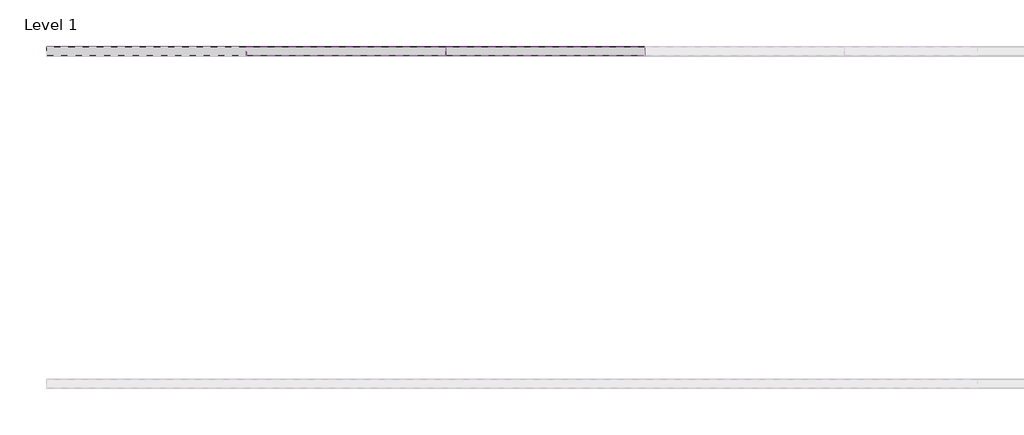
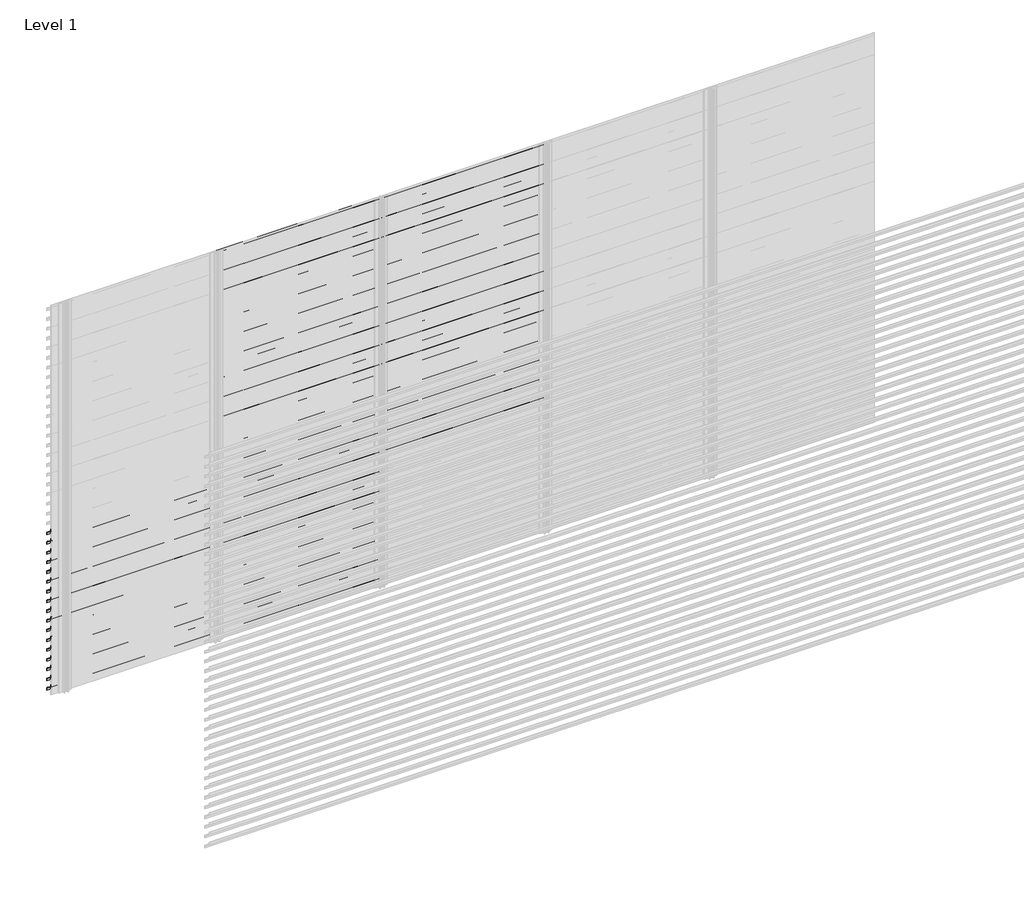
# One storey, part 6 of 55: 84 proxies.
"""IFC4 building model written with IfcOpenShell, lengths in millimetres."""

from ifc_helpers import new_model, si_unit, frame, origin, place, context, project, spatial, polyline, outline, extrude, element, save

model = new_model("IFC4")

# Units and contexts
model_context = context("Model", 3, world=origin())
ifc_project = project(units=[si_unit("LENGTHUNIT", "METRE", prefix="MILLI")], contexts=[model_context])

# Site, building, storey
site = spatial("IfcSite", under=ifc_project)
building = spatial("IfcBuilding", under=site)
storey = spatial("IfcBuildingStorey", under=building, Name="Level 1", Elevation=0.0)

# Proxies
placement = place(None, origin())
element("IfcBuildingElementProxy", 1, Name="Wall Sweeps", at=placement, inside=storey, context=model_context, shape_type="SweptSolid", body=[
    extrude(outline(polyline([(7044.0270068, 1218.5), (7044.0270068, 1198.5), (7042.7770068, 1199.2216933), (7042.7770068, 1217.7872415), (6989.0270068, 1255.3158044), (6989.0270068, 1275.0), (6990.2770068, 1275.0), (6990.2770068, 1256.0285629), (7044.0270068, 1218.5)])), frame((466.6208097, 0.0, 0.0), z_axis=(1.0, 0.0, 0.0), x_axis=(0.0, 1.0, 0.0)), (0.0, 0.0, 1.0), 1200.0000002),
])
element("IfcBuildingElementProxy", 2, Name="Wall Sweeps", at=placement, inside=storey, context=model_context, shape_type="SweptSolid", body=[
    extrude(outline(polyline([(7044.0270068, 1143.5), (7044.0270068, 1123.5), (7042.7770068, 1124.2216933), (7042.7770068, 1142.7872415), (6989.0270068, 1180.3158044), (6989.0270068, 1200.0), (6990.2770068, 1200.0), (6990.2770068, 1181.0285629), (7044.0270068, 1143.5)])), frame((466.6208097, 0.0, 0.0), z_axis=(1.0, 0.0, 0.0), x_axis=(0.0, 1.0, 0.0)), (0.0, 0.0, 1.0), 1200.0000002),
])
element("IfcBuildingElementProxy", 3, Name="Wall Sweeps", at=placement, inside=storey, context=model_context, shape_type="SweptSolid", body=[
    extrude(outline(polyline([(7044.0270068, 1068.5), (7044.0270068, 1048.5), (7042.7770068, 1049.2216933), (7042.7770068, 1067.7872415), (6989.0270068, 1105.3158044), (6989.0270068, 1125.0), (6990.2770068, 1125.0), (6990.2770068, 1106.0285629), (7044.0270068, 1068.5)])), frame((466.6208097, 0.0, 0.0), z_axis=(1.0, 0.0, 0.0), x_axis=(0.0, 1.0, 0.0)), (0.0, 0.0, 1.0), 1200.0000002),
])
element("IfcBuildingElementProxy", 4, Name="Wall Sweeps", at=placement, inside=storey, context=model_context, shape_type="SweptSolid", body=[
    extrude(outline(polyline([(7044.0270068, 993.5), (7044.0270068, 973.5), (7042.7770068, 974.2216933), (7042.7770068, 992.7872415), (6989.0270068, 1030.3158044), (6989.0270068, 1050.0), (6990.2770068, 1050.0), (6990.2770068, 1031.0285629), (7044.0270068, 993.5)])), frame((466.6208097, 0.0, 0.0), z_axis=(1.0, 0.0, 0.0), x_axis=(0.0, 1.0, 0.0)), (0.0, 0.0, 1.0), 1200.0000002),
])
element("IfcBuildingElementProxy", 5, Name="Wall Sweeps", at=placement, inside=storey, context=model_context, shape_type="SweptSolid", body=[
    extrude(outline(polyline([(7044.0270068, 918.5), (7044.0270068, 898.5), (7042.7770068, 899.2216933), (7042.7770068, 917.7872415), (6989.0270068, 955.3158044), (6989.0270068, 975.0), (6990.2770068, 975.0), (6990.2770068, 956.0285629), (7044.0270068, 918.5)])), frame((466.6208097, 0.0, 0.0), z_axis=(1.0, 0.0, 0.0), x_axis=(0.0, 1.0, 0.0)), (0.0, 0.0, 1.0), 1200.0000002),
])
element("IfcBuildingElementProxy", 6, Name="Wall Sweeps", at=placement, inside=storey, context=model_context, shape_type="SweptSolid", body=[
    extrude(outline(polyline([(7044.0270068, 843.5), (7044.0270068, 823.5), (7042.7770068, 824.2216933), (7042.7770068, 842.7872415), (6989.0270068, 880.3158044), (6989.0270068, 900.0), (6990.2770068, 900.0), (6990.2770068, 881.0285629), (7044.0270068, 843.5)])), frame((466.6208097, 0.0, 0.0), z_axis=(1.0, 0.0, 0.0), x_axis=(0.0, 1.0, 0.0)), (0.0, 0.0, 1.0), 1200.0000002),
])
element("IfcBuildingElementProxy", 7, Name="Wall Sweeps", at=placement, inside=storey, context=model_context, shape_type="SweptSolid", body=[
    extrude(outline(polyline([(7044.0270068, 768.5), (7044.0270068, 748.5), (7042.7770068, 749.2216933), (7042.7770068, 767.7872415), (6989.0270068, 805.3158044), (6989.0270068, 825.0), (6990.2770068, 825.0), (6990.2770068, 806.0285629), (7044.0270068, 768.5)])), frame((466.6208097, 0.0, 0.0), z_axis=(1.0, 0.0, 0.0), x_axis=(0.0, 1.0, 0.0)), (0.0, 0.0, 1.0), 1200.0000002),
])
element("IfcBuildingElementProxy", 8, Name="Wall Sweeps", at=placement, inside=storey, context=model_context, shape_type="SweptSolid", body=[
    extrude(outline(polyline([(7044.0270068, 693.5), (7044.0270068, 673.5), (7042.7770068, 674.2216933), (7042.7770068, 692.7872415), (6989.0270068, 730.3158044), (6989.0270068, 750.0), (6990.2770068, 750.0), (6990.2770068, 731.0285629), (7044.0270068, 693.5)])), frame((466.6208097, 0.0, 0.0), z_axis=(1.0, 0.0, 0.0), x_axis=(0.0, 1.0, 0.0)), (0.0, 0.0, 1.0), 1200.0000002),
])
element("IfcBuildingElementProxy", 9, Name="Wall Sweeps", at=placement, inside=storey, context=model_context, shape_type="SweptSolid", body=[
    extrude(outline(polyline([(7044.0270068, 618.5), (7044.0270068, 598.5), (7042.7770068, 599.2216933), (7042.7770068, 617.7872415), (6989.0270068, 655.3158044), (6989.0270068, 675.0), (6990.2770068, 675.0), (6990.2770068, 656.0285629), (7044.0270068, 618.5)])), frame((466.6208097, 0.0, 0.0), z_axis=(1.0, 0.0, 0.0), x_axis=(0.0, 1.0, 0.0)), (0.0, 0.0, 1.0), 1200.0000002),
])
element("IfcBuildingElementProxy", 10, Name="Wall Sweeps", at=placement, inside=storey, context=model_context, shape_type="SweptSolid", body=[
    extrude(outline(polyline([(7044.0270068, 543.5), (7044.0270068, 523.5), (7042.7770068, 524.2216933), (7042.7770068, 542.7872415), (6989.0270068, 580.3158044), (6989.0270068, 600.0), (6990.2770068, 600.0), (6990.2770068, 581.0285629), (7044.0270068, 543.5)])), frame((466.6208097, 0.0, 0.0), z_axis=(1.0, 0.0, 0.0), x_axis=(0.0, 1.0, 0.0)), (0.0, 0.0, 1.0), 1200.0000002),
])
element("IfcBuildingElementProxy", 11, Name="Wall Sweeps", at=placement, inside=storey, context=model_context, shape_type="SweptSolid", body=[
    extrude(outline(polyline([(7044.0270068, 468.5), (7044.0270068, 448.5), (7042.7770068, 449.2216933), (7042.7770068, 467.7872415), (6989.0270068, 505.3158044), (6989.0270068, 525.0), (6990.2770068, 525.0), (6990.2770068, 506.0285629), (7044.0270068, 468.5)])), frame((466.6208097, 0.0, 0.0), z_axis=(1.0, 0.0, 0.0), x_axis=(0.0, 1.0, 0.0)), (0.0, 0.0, 1.0), 1200.0000002),
])
element("IfcBuildingElementProxy", 12, Name="Wall Sweeps", at=placement, inside=storey, context=model_context, shape_type="SweptSolid", body=[
    extrude(outline(polyline([(7044.0270068, 393.5), (7044.0270068, 373.5), (7042.7770068, 374.2216933), (7042.7770068, 392.7872415), (6989.0270068, 430.3158044), (6989.0270068, 450.0), (6990.2770068, 450.0), (6990.2770068, 431.0285629), (7044.0270068, 393.5)])), frame((466.6208097, 0.0, 0.0), z_axis=(1.0, 0.0, 0.0), x_axis=(0.0, 1.0, 0.0)), (0.0, 0.0, 1.0), 1200.0000002),
])
element("IfcBuildingElementProxy", 13, Name="Wall Sweeps", at=placement, inside=storey, context=model_context, shape_type="SweptSolid", body=[
    extrude(outline(polyline([(7044.0270068, 318.5), (7044.0270068, 298.5), (7042.7770068, 299.2216933), (7042.7770068, 317.7872415), (6989.0270068, 355.3158044), (6989.0270068, 375.0), (6990.2770068, 375.0), (6990.2770068, 356.0285629), (7044.0270068, 318.5)])), frame((466.6208097, 0.0, 0.0), z_axis=(1.0, 0.0, 0.0), x_axis=(0.0, 1.0, 0.0)), (0.0, 0.0, 1.0), 1200.0000002),
])
element("IfcBuildingElementProxy", 14, Name="Wall Sweeps", at=placement, inside=storey, context=model_context, shape_type="SweptSolid", body=[
    extrude(outline(polyline([(7044.0270068, 243.5), (7044.0270068, 223.5), (7042.7770068, 224.2216933), (7042.7770068, 242.7872415), (6989.0270068, 280.3158044), (6989.0270068, 300.0), (6990.2770068, 300.0), (6990.2770068, 281.0285629), (7044.0270068, 243.5)])), frame((466.6208097, 0.0, 0.0), z_axis=(1.0, 0.0, 0.0), x_axis=(0.0, 1.0, 0.0)), (0.0, 0.0, 1.0), 1200.0000002),
])
element("IfcBuildingElementProxy", 15, Name="Wall Sweeps", at=placement, inside=storey, context=model_context, shape_type="SweptSolid", body=[
    extrude(outline(polyline([(7044.0270068, 168.5), (7044.0270068, 148.5), (7042.7770068, 149.2216933), (7042.7770068, 167.7872415), (6989.0270068, 205.3158044), (6989.0270068, 225.0), (6990.2770068, 225.0), (6990.2770068, 206.0285629), (7044.0270068, 168.5)])), frame((466.6208097, 0.0, 0.0), z_axis=(1.0, 0.0, 0.0), x_axis=(0.0, 1.0, 0.0)), (0.0, 0.0, 1.0), 1200.0000002),
])
element("IfcBuildingElementProxy", 16, Name="Wall Sweeps", at=placement, inside=storey, context=model_context, shape_type="SweptSolid", body=[
    extrude(outline(polyline([(7044.0270068, 93.5), (7044.0270068, 73.5), (7042.7770068, 74.2216933), (7042.7770068, 92.7872415), (6989.0270068, 130.3158044), (6989.0270068, 150.0), (6990.2770068, 150.0), (6990.2770068, 131.0285629), (7044.0270068, 93.5)])), frame((466.6208097, 0.0, 0.0), z_axis=(1.0, 0.0, 0.0), x_axis=(0.0, 1.0, 0.0)), (0.0, 0.0, 1.0), 1200.0000002),
])
element("IfcBuildingElementProxy", 17, Name="Wall Sweeps", at=placement, inside=storey, context=model_context, shape_type="SweptSolid", body=[
    extrude(outline(polyline([(7044.0270068, 18.5), (7044.0270068, -1.5), (7042.7770068, -0.7783067), (7042.7770068, 17.7872415), (6989.0270068, 55.3158044), (6989.0270068, 75.0), (6990.2770068, 75.0), (6990.2770068, 56.0285629), (7044.0270068, 18.5)])), frame((466.6208097, 0.0, 0.0), z_axis=(1.0, 0.0, 0.0), x_axis=(0.0, 1.0, 0.0)), (0.0, 0.0, 1.0), 1200.0000002),
])
element("IfcBuildingElementProxy", 18, Name="Wall Sweeps", at=placement, inside=storey, context=model_context, shape_type="SweptSolid", body=[
    extrude(outline(polyline([(7044.0270068, 2943.5), (7044.0270068, 2923.5), (7042.7770068, 2924.2216933), (7042.7770068, 2942.7872415), (6989.0270068, 2980.3158044), (6989.0270068, 3000.0), (6990.2770068, 3000.0), (6990.2770068, 2981.0285629), (7044.0270068, 2943.5)])), frame((1666.6208099, 0.0, 0.0), z_axis=(1.0, 0.0, 0.0), x_axis=(0.0, 1.0, 0.0)), (0.0, 0.0, 1.0), 1199.9999999),
])
element("IfcBuildingElementProxy", 19, Name="Wall Sweeps", at=placement, inside=storey, context=model_context, shape_type="SweptSolid", body=[
    extrude(outline(polyline([(7044.0270068, 2868.5), (7044.0270068, 2848.5), (7042.7770068, 2849.2216933), (7042.7770068, 2867.7872415), (6989.0270068, 2905.3158044), (6989.0270068, 2925.0), (6990.2770068, 2925.0), (6990.2770068, 2906.0285629), (7044.0270068, 2868.5)])), frame((1666.6208099, 0.0, 0.0), z_axis=(1.0, 0.0, 0.0), x_axis=(0.0, 1.0, 0.0)), (0.0, 0.0, 1.0), 1199.9999999),
])
element("IfcBuildingElementProxy", 20, Name="Wall Sweeps", at=placement, inside=storey, context=model_context, shape_type="SweptSolid", body=[
    extrude(outline(polyline([(7044.0270068, 2793.5), (7044.0270068, 2773.5), (7042.7770068, 2774.2216933), (7042.7770068, 2792.7872415), (6989.0270068, 2830.3158044), (6989.0270068, 2850.0), (6990.2770068, 2850.0), (6990.2770068, 2831.0285629), (7044.0270068, 2793.5)])), frame((1666.6208099, 0.0, 0.0), z_axis=(1.0, 0.0, 0.0), x_axis=(0.0, 1.0, 0.0)), (0.0, 0.0, 1.0), 1199.9999999),
])
element("IfcBuildingElementProxy", 21, Name="Wall Sweeps", at=placement, inside=storey, context=model_context, shape_type="SweptSolid", body=[
    extrude(outline(polyline([(7044.0270068, 2718.5), (7044.0270068, 2698.5), (7042.7770068, 2699.2216933), (7042.7770068, 2717.7872415), (6989.0270068, 2755.3158044), (6989.0270068, 2775.0), (6990.2770068, 2775.0), (6990.2770068, 2756.0285629), (7044.0270068, 2718.5)])), frame((1666.6208099, 0.0, 0.0), z_axis=(1.0, 0.0, 0.0), x_axis=(0.0, 1.0, 0.0)), (0.0, 0.0, 1.0), 1199.9999999),
])
element("IfcBuildingElementProxy", 22, Name="Wall Sweeps", at=placement, inside=storey, context=model_context, shape_type="SweptSolid", body=[
    extrude(outline(polyline([(7044.0270068, 2643.5), (7044.0270068, 2623.5), (7042.7770068, 2624.2216933), (7042.7770068, 2642.7872415), (6989.0270068, 2680.3158044), (6989.0270068, 2700.0), (6990.2770068, 2700.0), (6990.2770068, 2681.0285629), (7044.0270068, 2643.5)])), frame((1666.6208099, 0.0, 0.0), z_axis=(1.0, 0.0, 0.0), x_axis=(0.0, 1.0, 0.0)), (0.0, 0.0, 1.0), 1199.9999999),
])
element("IfcBuildingElementProxy", 23, Name="Wall Sweeps", at=placement, inside=storey, context=model_context, shape_type="SweptSolid", body=[
    extrude(outline(polyline([(7044.0270068, 2568.5), (7044.0270068, 2548.5), (7042.7770068, 2549.2216933), (7042.7770068, 2567.7872415), (6989.0270068, 2605.3158044), (6989.0270068, 2625.0), (6990.2770068, 2625.0), (6990.2770068, 2606.0285629), (7044.0270068, 2568.5)])), frame((1666.6208099, 0.0, 0.0), z_axis=(1.0, 0.0, 0.0), x_axis=(0.0, 1.0, 0.0)), (0.0, 0.0, 1.0), 1199.9999999),
])
element("IfcBuildingElementProxy", 24, Name="Wall Sweeps", at=placement, inside=storey, context=model_context, shape_type="SweptSolid", body=[
    extrude(outline(polyline([(7044.0270068, 2493.5), (7044.0270068, 2473.5), (7042.7770068, 2474.2216933), (7042.7770068, 2492.7872415), (6989.0270068, 2530.3158044), (6989.0270068, 2550.0), (6990.2770068, 2550.0), (6990.2770068, 2531.0285629), (7044.0270068, 2493.5)])), frame((1666.6208099, 0.0, 0.0), z_axis=(1.0, 0.0, 0.0), x_axis=(0.0, 1.0, 0.0)), (0.0, 0.0, 1.0), 1199.9999999),
])
element("IfcBuildingElementProxy", 25, Name="Wall Sweeps", at=placement, inside=storey, context=model_context, shape_type="SweptSolid", body=[
    extrude(outline(polyline([(7044.0270068, 2418.5), (7044.0270068, 2398.5), (7042.7770068, 2399.2216933), (7042.7770068, 2417.7872415), (6989.0270068, 2455.3158044), (6989.0270068, 2475.0), (6990.2770068, 2475.0), (6990.2770068, 2456.0285629), (7044.0270068, 2418.5)])), frame((1666.6208099, 0.0, 0.0), z_axis=(1.0, 0.0, 0.0), x_axis=(0.0, 1.0, 0.0)), (0.0, 0.0, 1.0), 1199.9999999),
])
element("IfcBuildingElementProxy", 26, Name="Wall Sweeps", at=placement, inside=storey, context=model_context, shape_type="SweptSolid", body=[
    extrude(outline(polyline([(7044.0270068, 2343.5), (7044.0270068, 2323.5), (7042.7770068, 2324.2216933), (7042.7770068, 2342.7872415), (6989.0270068, 2380.3158044), (6989.0270068, 2400.0), (6990.2770068, 2400.0), (6990.2770068, 2381.0285629), (7044.0270068, 2343.5)])), frame((1666.6208099, 0.0, 0.0), z_axis=(1.0, 0.0, 0.0), x_axis=(0.0, 1.0, 0.0)), (0.0, 0.0, 1.0), 1199.9999999),
])
element("IfcBuildingElementProxy", 27, Name="Wall Sweeps", at=placement, inside=storey, context=model_context, shape_type="SweptSolid", body=[
    extrude(outline(polyline([(7044.0270068, 2268.5), (7044.0270068, 2248.5), (7042.7770068, 2249.2216933), (7042.7770068, 2267.7872415), (6989.0270068, 2305.3158044), (6989.0270068, 2325.0), (6990.2770068, 2325.0), (6990.2770068, 2306.0285629), (7044.0270068, 2268.5)])), frame((1666.6208099, 0.0, 0.0), z_axis=(1.0, 0.0, 0.0), x_axis=(0.0, 1.0, 0.0)), (0.0, 0.0, 1.0), 1199.9999999),
])
element("IfcBuildingElementProxy", 28, Name="Wall Sweeps", at=placement, inside=storey, context=model_context, shape_type="SweptSolid", body=[
    extrude(outline(polyline([(7044.0270068, 2193.5), (7044.0270068, 2173.5), (7042.7770068, 2174.2216933), (7042.7770068, 2192.7872415), (6989.0270068, 2230.3158044), (6989.0270068, 2250.0), (6990.2770068, 2250.0), (6990.2770068, 2231.0285629), (7044.0270068, 2193.5)])), frame((1666.6208099, 0.0, 0.0), z_axis=(1.0, 0.0, 0.0), x_axis=(0.0, 1.0, 0.0)), (0.0, 0.0, 1.0), 1199.9999999),
])
element("IfcBuildingElementProxy", 29, Name="Wall Sweeps", at=placement, inside=storey, context=model_context, shape_type="SweptSolid", body=[
    extrude(outline(polyline([(7044.0270068, 2118.5), (7044.0270068, 2098.5), (7042.7770068, 2099.2216933), (7042.7770068, 2117.7872415), (6989.0270068, 2155.3158044), (6989.0270068, 2175.0), (6990.2770068, 2175.0), (6990.2770068, 2156.0285629), (7044.0270068, 2118.5)])), frame((1666.6208099, 0.0, 0.0), z_axis=(1.0, 0.0, 0.0), x_axis=(0.0, 1.0, 0.0)), (0.0, 0.0, 1.0), 1199.9999999),
])
element("IfcBuildingElementProxy", 30, Name="Wall Sweeps", at=placement, inside=storey, context=model_context, shape_type="SweptSolid", body=[
    extrude(outline(polyline([(7044.0270068, 2043.5), (7044.0270068, 2023.5), (7042.7770068, 2024.2216933), (7042.7770068, 2042.7872415), (6989.0270068, 2080.3158044), (6989.0270068, 2100.0), (6990.2770068, 2100.0), (6990.2770068, 2081.0285629), (7044.0270068, 2043.5)])), frame((1666.6208099, 0.0, 0.0), z_axis=(1.0, 0.0, 0.0), x_axis=(0.0, 1.0, 0.0)), (0.0, 0.0, 1.0), 1199.9999999),
])
element("IfcBuildingElementProxy", 31, Name="Wall Sweeps", at=placement, inside=storey, context=model_context, shape_type="SweptSolid", body=[
    extrude(outline(polyline([(7044.0270068, 1968.5), (7044.0270068, 1948.5), (7042.7770068, 1949.2216933), (7042.7770068, 1967.7872415), (6989.0270068, 2005.3158044), (6989.0270068, 2025.0), (6990.2770068, 2025.0), (6990.2770068, 2006.0285629), (7044.0270068, 1968.5)])), frame((1666.6208099, 0.0, 0.0), z_axis=(1.0, 0.0, 0.0), x_axis=(0.0, 1.0, 0.0)), (0.0, 0.0, 1.0), 1199.9999999),
])
element("IfcBuildingElementProxy", 32, Name="Wall Sweeps", at=placement, inside=storey, context=model_context, shape_type="SweptSolid", body=[
    extrude(outline(polyline([(7044.0270068, 1893.5), (7044.0270068, 1873.5), (7042.7770068, 1874.2216933), (7042.7770068, 1892.7872415), (6989.0270068, 1930.3158044), (6989.0270068, 1950.0), (6990.2770068, 1950.0), (6990.2770068, 1931.0285629), (7044.0270068, 1893.5)])), frame((1666.6208099, 0.0, 0.0), z_axis=(1.0, 0.0, 0.0), x_axis=(0.0, 1.0, 0.0)), (0.0, 0.0, 1.0), 1199.9999999),
])
element("IfcBuildingElementProxy", 33, Name="Wall Sweeps", at=placement, inside=storey, context=model_context, shape_type="SweptSolid", body=[
    extrude(outline(polyline([(7044.0270068, 1818.5), (7044.0270068, 1798.5), (7042.7770068, 1799.2216933), (7042.7770068, 1817.7872415), (6989.0270068, 1855.3158044), (6989.0270068, 1875.0), (6990.2770068, 1875.0), (6990.2770068, 1856.0285629), (7044.0270068, 1818.5)])), frame((1666.6208099, 0.0, 0.0), z_axis=(1.0, 0.0, 0.0), x_axis=(0.0, 1.0, 0.0)), (0.0, 0.0, 1.0), 1199.9999999),
])
element("IfcBuildingElementProxy", 34, Name="Wall Sweeps", at=placement, inside=storey, context=model_context, shape_type="SweptSolid", body=[
    extrude(outline(polyline([(7044.0270068, 1743.5), (7044.0270068, 1723.5), (7042.7770068, 1724.2216933), (7042.7770068, 1742.7872415), (6989.0270068, 1780.3158044), (6989.0270068, 1800.0), (6990.2770068, 1800.0), (6990.2770068, 1781.0285629), (7044.0270068, 1743.5)])), frame((1666.6208099, 0.0, 0.0), z_axis=(1.0, 0.0, 0.0), x_axis=(0.0, 1.0, 0.0)), (0.0, 0.0, 1.0), 1199.9999999),
])
element("IfcBuildingElementProxy", 35, Name="Wall Sweeps", at=placement, inside=storey, context=model_context, shape_type="SweptSolid", body=[
    extrude(outline(polyline([(7044.0270068, 1668.5), (7044.0270068, 1648.5), (7042.7770068, 1649.2216933), (7042.7770068, 1667.7872415), (6989.0270068, 1705.3158044), (6989.0270068, 1725.0), (6990.2770068, 1725.0), (6990.2770068, 1706.0285629), (7044.0270068, 1668.5)])), frame((1666.6208099, 0.0, 0.0), z_axis=(1.0, 0.0, 0.0), x_axis=(0.0, 1.0, 0.0)), (0.0, 0.0, 1.0), 1199.9999999),
])
element("IfcBuildingElementProxy", 36, Name="Wall Sweeps", at=placement, inside=storey, context=model_context, shape_type="SweptSolid", body=[
    extrude(outline(polyline([(7044.0270068, 1593.5), (7044.0270068, 1573.5), (7042.7770068, 1574.2216933), (7042.7770068, 1592.7872415), (6989.0270068, 1630.3158044), (6989.0270068, 1650.0), (6990.2770068, 1650.0), (6990.2770068, 1631.0285629), (7044.0270068, 1593.5)])), frame((1666.6208099, 0.0, 0.0), z_axis=(1.0, 0.0, 0.0), x_axis=(0.0, 1.0, 0.0)), (0.0, 0.0, 1.0), 1199.9999999),
])
element("IfcBuildingElementProxy", 37, Name="Wall Sweeps", at=placement, inside=storey, context=model_context, shape_type="SweptSolid", body=[
    extrude(outline(polyline([(7044.0270068, 1518.5), (7044.0270068, 1498.5), (7042.7770068, 1499.2216933), (7042.7770068, 1517.7872415), (6989.0270068, 1555.3158044), (6989.0270068, 1575.0), (6990.2770068, 1575.0), (6990.2770068, 1556.0285629), (7044.0270068, 1518.5)])), frame((1666.6208099, 0.0, 0.0), z_axis=(1.0, 0.0, 0.0), x_axis=(0.0, 1.0, 0.0)), (0.0, 0.0, 1.0), 1199.9999999),
])
element("IfcBuildingElementProxy", 38, Name="Wall Sweeps", at=placement, inside=storey, context=model_context, shape_type="SweptSolid", body=[
    extrude(outline(polyline([(7044.0270068, 1443.5), (7044.0270068, 1423.5), (7042.7770068, 1424.2216933), (7042.7770068, 1442.7872415), (6989.0270068, 1480.3158044), (6989.0270068, 1500.0), (6990.2770068, 1500.0), (6990.2770068, 1481.0285629), (7044.0270068, 1443.5)])), frame((1666.6208099, 0.0, 0.0), z_axis=(1.0, 0.0, 0.0), x_axis=(0.0, 1.0, 0.0)), (0.0, 0.0, 1.0), 1199.9999999),
])
element("IfcBuildingElementProxy", 39, Name="Wall Sweeps", at=placement, inside=storey, context=model_context, shape_type="SweptSolid", body=[
    extrude(outline(polyline([(7044.0270068, 1368.5), (7044.0270068, 1348.5), (7042.7770068, 1349.2216933), (7042.7770068, 1367.7872415), (6989.0270068, 1405.3158044), (6989.0270068, 1425.0), (6990.2770068, 1425.0), (6990.2770068, 1406.0285629), (7044.0270068, 1368.5)])), frame((1666.6208099, 0.0, 0.0), z_axis=(1.0, 0.0, 0.0), x_axis=(0.0, 1.0, 0.0)), (0.0, 0.0, 1.0), 1199.9999999),
])
element("IfcBuildingElementProxy", 40, Name="Wall Sweeps", at=placement, inside=storey, context=model_context, shape_type="SweptSolid", body=[
    extrude(outline(polyline([(7044.0270068, 1293.5), (7044.0270068, 1273.5), (7042.7770068, 1274.2216933), (7042.7770068, 1292.7872415), (6989.0270068, 1330.3158044), (6989.0270068, 1350.0), (6990.2770068, 1350.0), (6990.2770068, 1331.0285629), (7044.0270068, 1293.5)])), frame((1666.6208099, 0.0, 0.0), z_axis=(1.0, 0.0, 0.0), x_axis=(0.0, 1.0, 0.0)), (0.0, 0.0, 1.0), 1199.9999999),
])
element("IfcBuildingElementProxy", 41, Name="Wall Sweeps", at=placement, inside=storey, context=model_context, shape_type="SweptSolid", body=[
    extrude(outline(polyline([(7044.0270068, 1218.5), (7044.0270068, 1198.5), (7042.7770068, 1199.2216933), (7042.7770068, 1217.7872415), (6989.0270068, 1255.3158044), (6989.0270068, 1275.0), (6990.2770068, 1275.0), (6990.2770068, 1256.0285629), (7044.0270068, 1218.5)])), frame((1666.6208099, 0.0, 0.0), z_axis=(1.0, 0.0, 0.0), x_axis=(0.0, 1.0, 0.0)), (0.0, 0.0, 1.0), 1199.9999999),
])
element("IfcBuildingElementProxy", 42, Name="Wall Sweeps", at=placement, inside=storey, context=model_context, shape_type="SweptSolid", body=[
    extrude(outline(polyline([(7044.0270068, 1143.5), (7044.0270068, 1123.5), (7042.7770068, 1124.2216933), (7042.7770068, 1142.7872415), (6989.0270068, 1180.3158044), (6989.0270068, 1200.0), (6990.2770068, 1200.0), (6990.2770068, 1181.0285629), (7044.0270068, 1143.5)])), frame((1666.6208099, 0.0, 0.0), z_axis=(1.0, 0.0, 0.0), x_axis=(0.0, 1.0, 0.0)), (0.0, 0.0, 1.0), 1199.9999999),
])
element("IfcBuildingElementProxy", 43, Name="Wall Sweeps", at=placement, inside=storey, context=model_context, shape_type="SweptSolid", body=[
    extrude(outline(polyline([(7044.0270068, 1068.5), (7044.0270068, 1048.5), (7042.7770068, 1049.2216933), (7042.7770068, 1067.7872415), (6989.0270068, 1105.3158044), (6989.0270068, 1125.0), (6990.2770068, 1125.0), (6990.2770068, 1106.0285629), (7044.0270068, 1068.5)])), frame((1666.6208099, 0.0, 0.0), z_axis=(1.0, 0.0, 0.0), x_axis=(0.0, 1.0, 0.0)), (0.0, 0.0, 1.0), 1199.9999999),
])
element("IfcBuildingElementProxy", 44, Name="Wall Sweeps", at=placement, inside=storey, context=model_context, shape_type="SweptSolid", body=[
    extrude(outline(polyline([(7044.0270068, 993.5), (7044.0270068, 973.5), (7042.7770068, 974.2216933), (7042.7770068, 992.7872415), (6989.0270068, 1030.3158044), (6989.0270068, 1050.0), (6990.2770068, 1050.0), (6990.2770068, 1031.0285629), (7044.0270068, 993.5)])), frame((1666.6208099, 0.0, 0.0), z_axis=(1.0, 0.0, 0.0), x_axis=(0.0, 1.0, 0.0)), (0.0, 0.0, 1.0), 1199.9999999),
])
element("IfcBuildingElementProxy", 45, Name="Wall Sweeps", at=placement, inside=storey, context=model_context, shape_type="SweptSolid", body=[
    extrude(outline(polyline([(7044.0270068, 918.5), (7044.0270068, 898.5), (7042.7770068, 899.2216933), (7042.7770068, 917.7872415), (6989.0270068, 955.3158044), (6989.0270068, 975.0), (6990.2770068, 975.0), (6990.2770068, 956.0285629), (7044.0270068, 918.5)])), frame((1666.6208099, 0.0, 0.0), z_axis=(1.0, 0.0, 0.0), x_axis=(0.0, 1.0, 0.0)), (0.0, 0.0, 1.0), 1199.9999999),
])
element("IfcBuildingElementProxy", 46, Name="Wall Sweeps", at=placement, inside=storey, context=model_context, shape_type="SweptSolid", body=[
    extrude(outline(polyline([(7044.0270068, 843.5), (7044.0270068, 823.5), (7042.7770068, 824.2216933), (7042.7770068, 842.7872415), (6989.0270068, 880.3158044), (6989.0270068, 900.0), (6990.2770068, 900.0), (6990.2770068, 881.0285629), (7044.0270068, 843.5)])), frame((1666.6208099, 0.0, 0.0), z_axis=(1.0, 0.0, 0.0), x_axis=(0.0, 1.0, 0.0)), (0.0, 0.0, 1.0), 1199.9999999),
])
element("IfcBuildingElementProxy", 47, Name="Wall Sweeps", at=placement, inside=storey, context=model_context, shape_type="SweptSolid", body=[
    extrude(outline(polyline([(7044.0270068, 768.5), (7044.0270068, 748.5), (7042.7770068, 749.2216933), (7042.7770068, 767.7872415), (6989.0270068, 805.3158044), (6989.0270068, 825.0), (6990.2770068, 825.0), (6990.2770068, 806.0285629), (7044.0270068, 768.5)])), frame((1666.6208099, 0.0, 0.0), z_axis=(1.0, 0.0, 0.0), x_axis=(0.0, 1.0, 0.0)), (0.0, 0.0, 1.0), 1199.9999999),
])
element("IfcBuildingElementProxy", 48, Name="Wall Sweeps", at=placement, inside=storey, context=model_context, shape_type="SweptSolid", body=[
    extrude(outline(polyline([(7044.0270068, 693.5), (7044.0270068, 673.5), (7042.7770068, 674.2216933), (7042.7770068, 692.7872415), (6989.0270068, 730.3158044), (6989.0270068, 750.0), (6990.2770068, 750.0), (6990.2770068, 731.0285629), (7044.0270068, 693.5)])), frame((1666.6208099, 0.0, 0.0), z_axis=(1.0, 0.0, 0.0), x_axis=(0.0, 1.0, 0.0)), (0.0, 0.0, 1.0), 1199.9999999),
])
element("IfcBuildingElementProxy", 49, Name="Wall Sweeps", at=placement, inside=storey, context=model_context, shape_type="SweptSolid", body=[
    extrude(outline(polyline([(7044.0270068, 618.5), (7044.0270068, 598.5), (7042.7770068, 599.2216933), (7042.7770068, 617.7872415), (6989.0270068, 655.3158044), (6989.0270068, 675.0), (6990.2770068, 675.0), (6990.2770068, 656.0285629), (7044.0270068, 618.5)])), frame((1666.6208099, 0.0, 0.0), z_axis=(1.0, 0.0, 0.0), x_axis=(0.0, 1.0, 0.0)), (0.0, 0.0, 1.0), 1199.9999999),
])
element("IfcBuildingElementProxy", 50, Name="Wall Sweeps", at=placement, inside=storey, context=model_context, shape_type="SweptSolid", body=[
    extrude(outline(polyline([(7044.0270068, 543.5), (7044.0270068, 523.5), (7042.7770068, 524.2216933), (7042.7770068, 542.7872415), (6989.0270068, 580.3158044), (6989.0270068, 600.0), (6990.2770068, 600.0), (6990.2770068, 581.0285629), (7044.0270068, 543.5)])), frame((1666.6208099, 0.0, 0.0), z_axis=(1.0, 0.0, 0.0), x_axis=(0.0, 1.0, 0.0)), (0.0, 0.0, 1.0), 1199.9999999),
])
element("IfcBuildingElementProxy", 51, Name="Wall Sweeps", at=placement, inside=storey, context=model_context, shape_type="SweptSolid", body=[
    extrude(outline(polyline([(7044.0270068, 468.5), (7044.0270068, 448.5), (7042.7770068, 449.2216933), (7042.7770068, 467.7872415), (6989.0270068, 505.3158044), (6989.0270068, 525.0), (6990.2770068, 525.0), (6990.2770068, 506.0285629), (7044.0270068, 468.5)])), frame((1666.6208099, 0.0, 0.0), z_axis=(1.0, 0.0, 0.0), x_axis=(0.0, 1.0, 0.0)), (0.0, 0.0, 1.0), 1199.9999999),
])
element("IfcBuildingElementProxy", 52, Name="Wall Sweeps", at=placement, inside=storey, context=model_context, shape_type="SweptSolid", body=[
    extrude(outline(polyline([(7044.0270068, 393.5), (7044.0270068, 373.5), (7042.7770068, 374.2216933), (7042.7770068, 392.7872415), (6989.0270068, 430.3158044), (6989.0270068, 450.0), (6990.2770068, 450.0), (6990.2770068, 431.0285629), (7044.0270068, 393.5)])), frame((1666.6208099, 0.0, 0.0), z_axis=(1.0, 0.0, 0.0), x_axis=(0.0, 1.0, 0.0)), (0.0, 0.0, 1.0), 1199.9999999),
])
element("IfcBuildingElementProxy", 53, Name="Wall Sweeps", at=placement, inside=storey, context=model_context, shape_type="SweptSolid", body=[
    extrude(outline(polyline([(7044.0270068, 318.5), (7044.0270068, 298.5), (7042.7770068, 299.2216933), (7042.7770068, 317.7872415), (6989.0270068, 355.3158044), (6989.0270068, 375.0), (6990.2770068, 375.0), (6990.2770068, 356.0285629), (7044.0270068, 318.5)])), frame((1666.6208099, 0.0, 0.0), z_axis=(1.0, 0.0, 0.0), x_axis=(0.0, 1.0, 0.0)), (0.0, 0.0, 1.0), 1199.9999999),
])
element("IfcBuildingElementProxy", 54, Name="Wall Sweeps", at=placement, inside=storey, context=model_context, shape_type="SweptSolid", body=[
    extrude(outline(polyline([(7044.0270068, 243.5), (7044.0270068, 223.5), (7042.7770068, 224.2216933), (7042.7770068, 242.7872415), (6989.0270068, 280.3158044), (6989.0270068, 300.0), (6990.2770068, 300.0), (6990.2770068, 281.0285629), (7044.0270068, 243.5)])), frame((1666.6208099, 0.0, 0.0), z_axis=(1.0, 0.0, 0.0), x_axis=(0.0, 1.0, 0.0)), (0.0, 0.0, 1.0), 1199.9999999),
])
element("IfcBuildingElementProxy", 55, Name="Wall Sweeps", at=placement, inside=storey, context=model_context, shape_type="SweptSolid", body=[
    extrude(outline(polyline([(7044.0270068, 168.5), (7044.0270068, 148.5), (7042.7770068, 149.2216933), (7042.7770068, 167.7872415), (6989.0270068, 205.3158044), (6989.0270068, 225.0), (6990.2770068, 225.0), (6990.2770068, 206.0285629), (7044.0270068, 168.5)])), frame((1666.6208099, 0.0, 0.0), z_axis=(1.0, 0.0, 0.0), x_axis=(0.0, 1.0, 0.0)), (0.0, 0.0, 1.0), 1199.9999999),
])
element("IfcBuildingElementProxy", 56, Name="Wall Sweeps", at=placement, inside=storey, context=model_context, shape_type="SweptSolid", body=[
    extrude(outline(polyline([(7044.0270068, 93.5), (7044.0270068, 73.5), (7042.7770068, 74.2216933), (7042.7770068, 92.7872415), (6989.0270068, 130.3158044), (6989.0270068, 150.0), (6990.2770068, 150.0), (6990.2770068, 131.0285629), (7044.0270068, 93.5)])), frame((1666.6208099, 0.0, 0.0), z_axis=(1.0, 0.0, 0.0), x_axis=(0.0, 1.0, 0.0)), (0.0, 0.0, 1.0), 1199.9999999),
])
element("IfcBuildingElementProxy", 57, Name="Wall Sweeps", at=placement, inside=storey, context=model_context, shape_type="SweptSolid", body=[
    extrude(outline(polyline([(7044.0270068, 18.5), (7044.0270068, -1.5), (7042.7770068, -0.7783067), (7042.7770068, 17.7872415), (6989.0270068, 55.3158044), (6989.0270068, 75.0), (6990.2770068, 75.0), (6990.2770068, 56.0285629), (7044.0270068, 18.5)])), frame((1666.6208099, 0.0, 0.0), z_axis=(1.0, 0.0, 0.0), x_axis=(0.0, 1.0, 0.0)), (0.0, 0.0, 1.0), 1199.9999999),
])
element("IfcBuildingElementProxy", 58, Name="Wall Sweeps", at=placement, inside=storey, context=model_context, shape_type="SweptSolid", body=[
    extrude(outline(polyline([(7044.0270068, 2943.5), (7044.0270068, 2923.5), (7042.7770068, 2924.2216933), (7042.7770068, 2942.7872415), (6989.0270068, 2980.3158044), (6989.0270068, 3000.0), (6990.2770068, 3000.0), (6990.2770068, 2981.0285629), (7044.0270068, 2943.5)])), frame((2866.6208097, 0.0, 0.0), z_axis=(1.0, 0.0, 0.0), x_axis=(0.0, 1.0, 0.0)), (0.0, 0.0, 1.0), 1199.9999999),
])
element("IfcBuildingElementProxy", 59, Name="Wall Sweeps", at=placement, inside=storey, context=model_context, shape_type="SweptSolid", body=[
    extrude(outline(polyline([(7044.0270068, 2868.5), (7044.0270068, 2848.5), (7042.7770068, 2849.2216933), (7042.7770068, 2867.7872415), (6989.0270068, 2905.3158044), (6989.0270068, 2925.0), (6990.2770068, 2925.0), (6990.2770068, 2906.0285629), (7044.0270068, 2868.5)])), frame((2866.6208097, 0.0, 0.0), z_axis=(1.0, 0.0, 0.0), x_axis=(0.0, 1.0, 0.0)), (0.0, 0.0, 1.0), 1199.9999999),
])
element("IfcBuildingElementProxy", 60, Name="Wall Sweeps", at=placement, inside=storey, context=model_context, shape_type="SweptSolid", body=[
    extrude(outline(polyline([(7044.0270068, 2793.5), (7044.0270068, 2773.5), (7042.7770068, 2774.2216933), (7042.7770068, 2792.7872415), (6989.0270068, 2830.3158044), (6989.0270068, 2850.0), (6990.2770068, 2850.0), (6990.2770068, 2831.0285629), (7044.0270068, 2793.5)])), frame((2866.6208097, 0.0, 0.0), z_axis=(1.0, 0.0, 0.0), x_axis=(0.0, 1.0, 0.0)), (0.0, 0.0, 1.0), 1199.9999999),
])
element("IfcBuildingElementProxy", 61, Name="Wall Sweeps", at=placement, inside=storey, context=model_context, shape_type="SweptSolid", body=[
    extrude(outline(polyline([(7044.0270068, 2718.5), (7044.0270068, 2698.5), (7042.7770068, 2699.2216933), (7042.7770068, 2717.7872415), (6989.0270068, 2755.3158044), (6989.0270068, 2775.0), (6990.2770068, 2775.0), (6990.2770068, 2756.0285629), (7044.0270068, 2718.5)])), frame((2866.6208097, 0.0, 0.0), z_axis=(1.0, 0.0, 0.0), x_axis=(0.0, 1.0, 0.0)), (0.0, 0.0, 1.0), 1199.9999999),
])
element("IfcBuildingElementProxy", 62, Name="Wall Sweeps", at=placement, inside=storey, context=model_context, shape_type="SweptSolid", body=[
    extrude(outline(polyline([(7044.0270068, 2643.5), (7044.0270068, 2623.5), (7042.7770068, 2624.2216933), (7042.7770068, 2642.7872415), (6989.0270068, 2680.3158044), (6989.0270068, 2700.0), (6990.2770068, 2700.0), (6990.2770068, 2681.0285629), (7044.0270068, 2643.5)])), frame((2866.6208097, 0.0, 0.0), z_axis=(1.0, 0.0, 0.0), x_axis=(0.0, 1.0, 0.0)), (0.0, 0.0, 1.0), 1199.9999999),
])
element("IfcBuildingElementProxy", 63, Name="Wall Sweeps", at=placement, inside=storey, context=model_context, shape_type="SweptSolid", body=[
    extrude(outline(polyline([(7044.0270068, 2568.5), (7044.0270068, 2548.5), (7042.7770068, 2549.2216933), (7042.7770068, 2567.7872415), (6989.0270068, 2605.3158044), (6989.0270068, 2625.0), (6990.2770068, 2625.0), (6990.2770068, 2606.0285629), (7044.0270068, 2568.5)])), frame((2866.6208097, 0.0, 0.0), z_axis=(1.0, 0.0, 0.0), x_axis=(0.0, 1.0, 0.0)), (0.0, 0.0, 1.0), 1199.9999999),
])
element("IfcBuildingElementProxy", 64, Name="Wall Sweeps", at=placement, inside=storey, context=model_context, shape_type="SweptSolid", body=[
    extrude(outline(polyline([(7044.0270068, 2493.5), (7044.0270068, 2473.5), (7042.7770068, 2474.2216933), (7042.7770068, 2492.7872415), (6989.0270068, 2530.3158044), (6989.0270068, 2550.0), (6990.2770068, 2550.0), (6990.2770068, 2531.0285629), (7044.0270068, 2493.5)])), frame((2866.6208097, 0.0, 0.0), z_axis=(1.0, 0.0, 0.0), x_axis=(0.0, 1.0, 0.0)), (0.0, 0.0, 1.0), 1199.9999999),
])
element("IfcBuildingElementProxy", 65, Name="Wall Sweeps", at=placement, inside=storey, context=model_context, shape_type="SweptSolid", body=[
    extrude(outline(polyline([(7044.0270068, 2418.5), (7044.0270068, 2398.5), (7042.7770068, 2399.2216933), (7042.7770068, 2417.7872415), (6989.0270068, 2455.3158044), (6989.0270068, 2475.0), (6990.2770068, 2475.0), (6990.2770068, 2456.0285629), (7044.0270068, 2418.5)])), frame((2866.6208097, 0.0, 0.0), z_axis=(1.0, 0.0, 0.0), x_axis=(0.0, 1.0, 0.0)), (0.0, 0.0, 1.0), 1199.9999999),
])
element("IfcBuildingElementProxy", 66, Name="Wall Sweeps", at=placement, inside=storey, context=model_context, shape_type="SweptSolid", body=[
    extrude(outline(polyline([(7044.0270068, 2343.5), (7044.0270068, 2323.5), (7042.7770068, 2324.2216933), (7042.7770068, 2342.7872415), (6989.0270068, 2380.3158044), (6989.0270068, 2400.0), (6990.2770068, 2400.0), (6990.2770068, 2381.0285629), (7044.0270068, 2343.5)])), frame((2866.6208097, 0.0, 0.0), z_axis=(1.0, 0.0, 0.0), x_axis=(0.0, 1.0, 0.0)), (0.0, 0.0, 1.0), 1199.9999999),
])
element("IfcBuildingElementProxy", 67, Name="Wall Sweeps", at=placement, inside=storey, context=model_context, shape_type="SweptSolid", body=[
    extrude(outline(polyline([(7044.0270068, 2268.5), (7044.0270068, 2248.5), (7042.7770068, 2249.2216933), (7042.7770068, 2267.7872415), (6989.0270068, 2305.3158044), (6989.0270068, 2325.0), (6990.2770068, 2325.0), (6990.2770068, 2306.0285629), (7044.0270068, 2268.5)])), frame((2866.6208097, 0.0, 0.0), z_axis=(1.0, 0.0, 0.0), x_axis=(0.0, 1.0, 0.0)), (0.0, 0.0, 1.0), 1199.9999999),
])
element("IfcBuildingElementProxy", 68, Name="Wall Sweeps", at=placement, inside=storey, context=model_context, shape_type="SweptSolid", body=[
    extrude(outline(polyline([(7044.0270068, 2193.5), (7044.0270068, 2173.5), (7042.7770068, 2174.2216933), (7042.7770068, 2192.7872415), (6989.0270068, 2230.3158044), (6989.0270068, 2250.0), (6990.2770068, 2250.0), (6990.2770068, 2231.0285629), (7044.0270068, 2193.5)])), frame((2866.6208097, 0.0, 0.0), z_axis=(1.0, 0.0, 0.0), x_axis=(0.0, 1.0, 0.0)), (0.0, 0.0, 1.0), 1199.9999999),
])
element("IfcBuildingElementProxy", 69, Name="Wall Sweeps", at=placement, inside=storey, context=model_context, shape_type="SweptSolid", body=[
    extrude(outline(polyline([(7044.0270068, 2118.5), (7044.0270068, 2098.5), (7042.7770068, 2099.2216933), (7042.7770068, 2117.7872415), (6989.0270068, 2155.3158044), (6989.0270068, 2175.0), (6990.2770068, 2175.0), (6990.2770068, 2156.0285629), (7044.0270068, 2118.5)])), frame((2866.6208097, 0.0, 0.0), z_axis=(1.0, 0.0, 0.0), x_axis=(0.0, 1.0, 0.0)), (0.0, 0.0, 1.0), 1199.9999999),
])
element("IfcBuildingElementProxy", 70, Name="Wall Sweeps", at=placement, inside=storey, context=model_context, shape_type="SweptSolid", body=[
    extrude(outline(polyline([(7044.0270068, 2043.5), (7044.0270068, 2023.5), (7042.7770068, 2024.2216933), (7042.7770068, 2042.7872415), (6989.0270068, 2080.3158044), (6989.0270068, 2100.0), (6990.2770068, 2100.0), (6990.2770068, 2081.0285629), (7044.0270068, 2043.5)])), frame((2866.6208097, 0.0, 0.0), z_axis=(1.0, 0.0, 0.0), x_axis=(0.0, 1.0, 0.0)), (0.0, 0.0, 1.0), 1199.9999999),
])
element("IfcBuildingElementProxy", 71, Name="Wall Sweeps", at=placement, inside=storey, context=model_context, shape_type="SweptSolid", body=[
    extrude(outline(polyline([(7044.0270068, 1968.5), (7044.0270068, 1948.5), (7042.7770068, 1949.2216933), (7042.7770068, 1967.7872415), (6989.0270068, 2005.3158044), (6989.0270068, 2025.0), (6990.2770068, 2025.0), (6990.2770068, 2006.0285629), (7044.0270068, 1968.5)])), frame((2866.6208097, 0.0, 0.0), z_axis=(1.0, 0.0, 0.0), x_axis=(0.0, 1.0, 0.0)), (0.0, 0.0, 1.0), 1199.9999999),
])
element("IfcBuildingElementProxy", 72, Name="Wall Sweeps", at=placement, inside=storey, context=model_context, shape_type="SweptSolid", body=[
    extrude(outline(polyline([(7044.0270068, 1893.5), (7044.0270068, 1873.5), (7042.7770068, 1874.2216933), (7042.7770068, 1892.7872415), (6989.0270068, 1930.3158044), (6989.0270068, 1950.0), (6990.2770068, 1950.0), (6990.2770068, 1931.0285629), (7044.0270068, 1893.5)])), frame((2866.6208097, 0.0, 0.0), z_axis=(1.0, 0.0, 0.0), x_axis=(0.0, 1.0, 0.0)), (0.0, 0.0, 1.0), 1199.9999999),
])
element("IfcBuildingElementProxy", 73, Name="Wall Sweeps", at=placement, inside=storey, context=model_context, shape_type="SweptSolid", body=[
    extrude(outline(polyline([(7044.0270068, 1818.5), (7044.0270068, 1798.5), (7042.7770068, 1799.2216933), (7042.7770068, 1817.7872415), (6989.0270068, 1855.3158044), (6989.0270068, 1875.0), (6990.2770068, 1875.0), (6990.2770068, 1856.0285629), (7044.0270068, 1818.5)])), frame((2866.6208097, 0.0, 0.0), z_axis=(1.0, 0.0, 0.0), x_axis=(0.0, 1.0, 0.0)), (0.0, 0.0, 1.0), 1199.9999999),
])
element("IfcBuildingElementProxy", 74, Name="Wall Sweeps", at=placement, inside=storey, context=model_context, shape_type="SweptSolid", body=[
    extrude(outline(polyline([(7044.0270068, 1743.5), (7044.0270068, 1723.5), (7042.7770068, 1724.2216933), (7042.7770068, 1742.7872415), (6989.0270068, 1780.3158044), (6989.0270068, 1800.0), (6990.2770068, 1800.0), (6990.2770068, 1781.0285629), (7044.0270068, 1743.5)])), frame((2866.6208097, 0.0, 0.0), z_axis=(1.0, 0.0, 0.0), x_axis=(0.0, 1.0, 0.0)), (0.0, 0.0, 1.0), 1199.9999999),
])
element("IfcBuildingElementProxy", 75, Name="Wall Sweeps", at=placement, inside=storey, context=model_context, shape_type="SweptSolid", body=[
    extrude(outline(polyline([(7044.0270068, 1668.5), (7044.0270068, 1648.5), (7042.7770068, 1649.2216933), (7042.7770068, 1667.7872415), (6989.0270068, 1705.3158044), (6989.0270068, 1725.0), (6990.2770068, 1725.0), (6990.2770068, 1706.0285629), (7044.0270068, 1668.5)])), frame((2866.6208097, 0.0, 0.0), z_axis=(1.0, 0.0, 0.0), x_axis=(0.0, 1.0, 0.0)), (0.0, 0.0, 1.0), 1199.9999999),
])
element("IfcBuildingElementProxy", 76, Name="Wall Sweeps", at=placement, inside=storey, context=model_context, shape_type="SweptSolid", body=[
    extrude(outline(polyline([(7044.0270068, 1593.5), (7044.0270068, 1573.5), (7042.7770068, 1574.2216933), (7042.7770068, 1592.7872415), (6989.0270068, 1630.3158044), (6989.0270068, 1650.0), (6990.2770068, 1650.0), (6990.2770068, 1631.0285629), (7044.0270068, 1593.5)])), frame((2866.6208097, 0.0, 0.0), z_axis=(1.0, 0.0, 0.0), x_axis=(0.0, 1.0, 0.0)), (0.0, 0.0, 1.0), 1199.9999999),
])
element("IfcBuildingElementProxy", 77, Name="Wall Sweeps", at=placement, inside=storey, context=model_context, shape_type="SweptSolid", body=[
    extrude(outline(polyline([(7044.0270068, 1518.5), (7044.0270068, 1498.5), (7042.7770068, 1499.2216933), (7042.7770068, 1517.7872415), (6989.0270068, 1555.3158044), (6989.0270068, 1575.0), (6990.2770068, 1575.0), (6990.2770068, 1556.0285629), (7044.0270068, 1518.5)])), frame((2866.6208097, 0.0, 0.0), z_axis=(1.0, 0.0, 0.0), x_axis=(0.0, 1.0, 0.0)), (0.0, 0.0, 1.0), 1199.9999999),
])
element("IfcBuildingElementProxy", 78, Name="Wall Sweeps", at=placement, inside=storey, context=model_context, shape_type="SweptSolid", body=[
    extrude(outline(polyline([(7044.0270068, 1443.5), (7044.0270068, 1423.5), (7042.7770068, 1424.2216933), (7042.7770068, 1442.7872415), (6989.0270068, 1480.3158044), (6989.0270068, 1500.0), (6990.2770068, 1500.0), (6990.2770068, 1481.0285629), (7044.0270068, 1443.5)])), frame((2866.6208097, 0.0, 0.0), z_axis=(1.0, 0.0, 0.0), x_axis=(0.0, 1.0, 0.0)), (0.0, 0.0, 1.0), 1199.9999999),
])
element("IfcBuildingElementProxy", 79, Name="Wall Sweeps", at=placement, inside=storey, context=model_context, shape_type="SweptSolid", body=[
    extrude(outline(polyline([(7044.0270068, 1368.5), (7044.0270068, 1348.5), (7042.7770068, 1349.2216933), (7042.7770068, 1367.7872415), (6989.0270068, 1405.3158044), (6989.0270068, 1425.0), (6990.2770068, 1425.0), (6990.2770068, 1406.0285629), (7044.0270068, 1368.5)])), frame((2866.6208097, 0.0, 0.0), z_axis=(1.0, 0.0, 0.0), x_axis=(0.0, 1.0, 0.0)), (0.0, 0.0, 1.0), 1199.9999999),
])
element("IfcBuildingElementProxy", 80, Name="Wall Sweeps", at=placement, inside=storey, context=model_context, shape_type="SweptSolid", body=[
    extrude(outline(polyline([(7044.0270068, 1293.5), (7044.0270068, 1273.5), (7042.7770068, 1274.2216933), (7042.7770068, 1292.7872415), (6989.0270068, 1330.3158044), (6989.0270068, 1350.0), (6990.2770068, 1350.0), (6990.2770068, 1331.0285629), (7044.0270068, 1293.5)])), frame((2866.6208097, 0.0, 0.0), z_axis=(1.0, 0.0, 0.0), x_axis=(0.0, 1.0, 0.0)), (0.0, 0.0, 1.0), 1199.9999999),
])
element("IfcBuildingElementProxy", 81, Name="Wall Sweeps", at=placement, inside=storey, context=model_context, shape_type="SweptSolid", body=[
    extrude(outline(polyline([(7044.0270068, 1218.5), (7044.0270068, 1198.5), (7042.7770068, 1199.2216933), (7042.7770068, 1217.7872415), (6989.0270068, 1255.3158044), (6989.0270068, 1275.0), (6990.2770068, 1275.0), (6990.2770068, 1256.0285629), (7044.0270068, 1218.5)])), frame((2866.6208097, 0.0, 0.0), z_axis=(1.0, 0.0, 0.0), x_axis=(0.0, 1.0, 0.0)), (0.0, 0.0, 1.0), 1199.9999999),
])
element("IfcBuildingElementProxy", 82, Name="Wall Sweeps", at=placement, inside=storey, context=model_context, shape_type="SweptSolid", body=[
    extrude(outline(polyline([(7044.0270068, 1143.5), (7044.0270068, 1123.5), (7042.7770068, 1124.2216933), (7042.7770068, 1142.7872415), (6989.0270068, 1180.3158044), (6989.0270068, 1200.0), (6990.2770068, 1200.0), (6990.2770068, 1181.0285629), (7044.0270068, 1143.5)])), frame((2866.6208097, 0.0, 0.0), z_axis=(1.0, 0.0, 0.0), x_axis=(0.0, 1.0, 0.0)), (0.0, 0.0, 1.0), 1199.9999999),
])
element("IfcBuildingElementProxy", 83, Name="Wall Sweeps", at=placement, inside=storey, context=model_context, shape_type="SweptSolid", body=[
    extrude(outline(polyline([(7044.0270068, 1068.5), (7044.0270068, 1048.5), (7042.7770068, 1049.2216933), (7042.7770068, 1067.7872415), (6989.0270068, 1105.3158044), (6989.0270068, 1125.0), (6990.2770068, 1125.0), (6990.2770068, 1106.0285629), (7044.0270068, 1068.5)])), frame((2866.6208097, 0.0, 0.0), z_axis=(1.0, 0.0, 0.0), x_axis=(0.0, 1.0, 0.0)), (0.0, 0.0, 1.0), 1199.9999999),
])
element("IfcBuildingElementProxy", 84, Name="Wall Sweeps", at=placement, inside=storey, context=model_context, shape_type="SweptSolid", body=[
    extrude(outline(polyline([(7044.0270068, 993.5), (7044.0270068, 973.5), (7042.7770068, 974.2216933), (7042.7770068, 992.7872415), (6989.0270068, 1030.3158044), (6989.0270068, 1050.0), (6990.2770068, 1050.0), (6990.2770068, 1031.0285629), (7044.0270068, 993.5)])), frame((2866.6208097, 0.0, 0.0), z_axis=(1.0, 0.0, 0.0), x_axis=(0.0, 1.0, 0.0)), (0.0, 0.0, 1.0), 1199.9999999),
])

save(model, "model.ifc")
